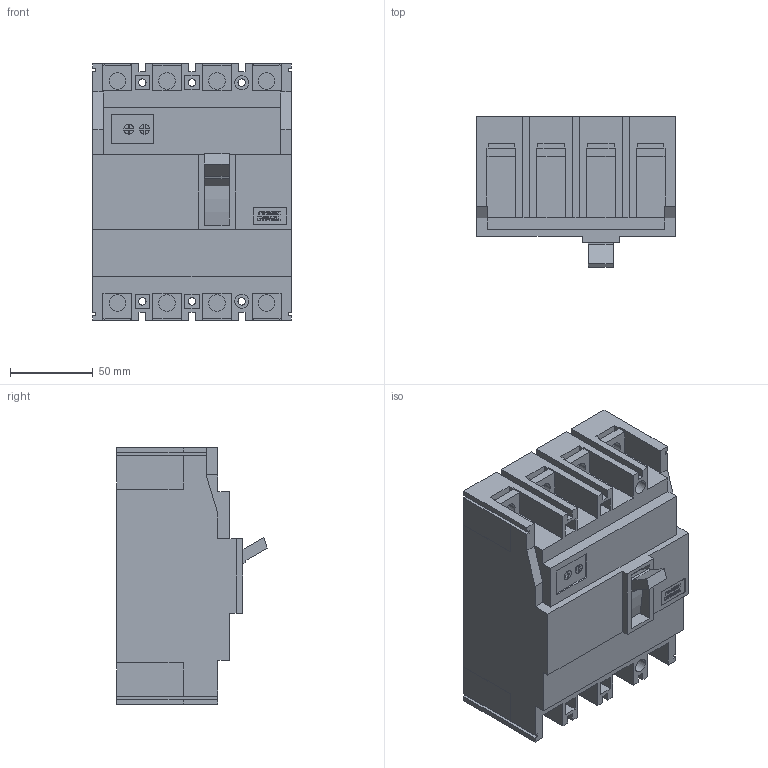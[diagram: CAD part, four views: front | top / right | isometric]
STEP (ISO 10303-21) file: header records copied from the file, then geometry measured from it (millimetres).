
FILE_DESCRIPTION((''),'2;1');
FILE_NAME('ZS125GJ420','2012-09-20T',('cmahecha'),(''),'PRO/ENGINEER BY PARAMETRIC TECHNOLOGY CORPORATION, 2010280','PRO/ENGINEER BY PARAMETRIC TECHNOLOGY CORPORATION, 2010280','');
FILE_SCHEMA(('CONFIG_CONTROL_DESIGN'));
Length unit declared in the file: millimetre
Products named in the file (1): ZS125GJ420
Bounding box: 120 x 90.8 x 155 mm (x, y, z)
Volume: 1123953 mm3; surface area: 102357.2 mm2
Topology: 1 solids, 1 shells, 663 faces, 1855 edges, 1230 vertices
Faces by surface type: plane 621, cylinder 42
Entity records: 21007 total; most frequent: CARTESIAN_POINT 3748, ORIENTED_EDGE 3710, DIRECTION 3265, EDGE_CURVE 1855, VECTOR 1771, LINE 1771, VERTEX_POINT 1230, AXIS2_PLACEMENT_3D 747
